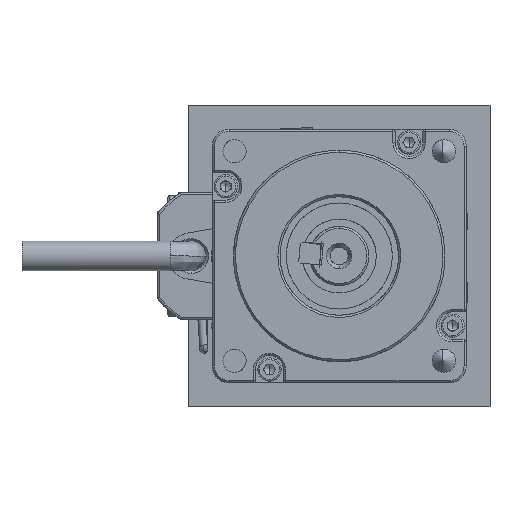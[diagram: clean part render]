
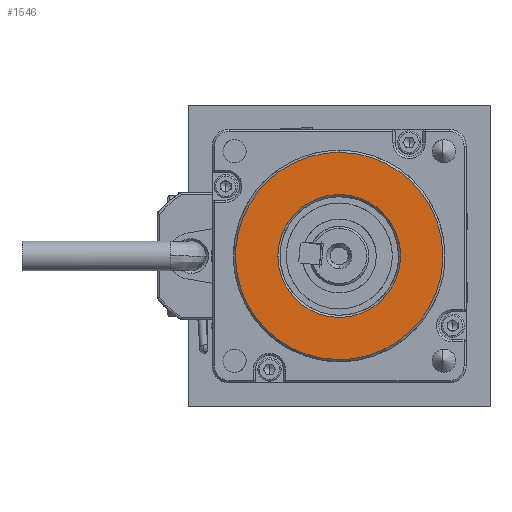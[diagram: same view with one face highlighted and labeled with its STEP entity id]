
A CAD part, left-side view. The second image highlights one B-rep face of the part: STEP entity #1546.
In plain terms, the highlighted planar face has unit normal (1, 0, 0).
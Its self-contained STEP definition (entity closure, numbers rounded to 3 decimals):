
#104=FACE_BOUND('',#3570,.T.);
#394=PLANE('',#16506);
#1546=ADVANCED_FACE('',(#2511,#104),#394,.T.);
#2511=FACE_OUTER_BOUND('',#3569,.T.);
#3569=EDGE_LOOP('',(#7785,#7786));
#3570=EDGE_LOOP('',(#7787,#7788));
#7785=ORIENTED_EDGE('',*,*,#10624,.T.);
#7786=ORIENTED_EDGE('',*,*,#10495,.T.);
#7787=ORIENTED_EDGE('',*,*,#10860,.F.);
#7788=ORIENTED_EDGE('',*,*,#10489,.F.);
#10489=EDGE_CURVE('',#15268,#15269,#13512,.T.);
#10495=EDGE_CURVE('',#15274,#15275,#13515,.T.);
#10624=EDGE_CURVE('',#15275,#15274,#13567,.T.);
#10860=EDGE_CURVE('',#15269,#15268,#13658,.T.);
#13512=(
BOUNDED_CURVE()
B_SPLINE_CURVE(2,(#44042,#44043,#44044,#44045,#44046),.UNSPECIFIED.,.F.,
 .F.)
B_SPLINE_CURVE_WITH_KNOTS((3,2,3),(-45.553,-22.777,
0.),.UNSPECIFIED.)
CURVE()
GEOMETRIC_REPRESENTATION_ITEM()
RATIONAL_B_SPLINE_CURVE((1.,0.707,1.,0.707,1.))
REPRESENTATION_ITEM('')
);
#13515=(
BOUNDED_CURVE()
B_SPLINE_CURVE(2,(#44059,#44060,#44061,#44062,#44063),.UNSPECIFIED.,.F.,
 .F.)
B_SPLINE_CURVE_WITH_KNOTS((3,2,3),(0.,38.485,76.969),
 .UNSPECIFIED.)
CURVE()
GEOMETRIC_REPRESENTATION_ITEM()
RATIONAL_B_SPLINE_CURVE((1.,0.707,1.,0.707,1.))
REPRESENTATION_ITEM('')
);
#13567=(
BOUNDED_CURVE()
B_SPLINE_CURVE(2,(#44406,#44407,#44408,#44409,#44410),.UNSPECIFIED.,.F.,
 .F.)
B_SPLINE_CURVE_WITH_KNOTS((3,2,3),(0.,38.485,76.969),
 .UNSPECIFIED.)
CURVE()
GEOMETRIC_REPRESENTATION_ITEM()
RATIONAL_B_SPLINE_CURVE((1.,0.707,1.,0.707,1.))
REPRESENTATION_ITEM('')
);
#13658=(
BOUNDED_CURVE()
B_SPLINE_CURVE(2,(#46212,#46213,#46214,#46215,#46216),.UNSPECIFIED.,.F.,
 .F.)
B_SPLINE_CURVE_WITH_KNOTS((3,2,3),(-45.553,-22.777,
0.),.UNSPECIFIED.)
CURVE()
GEOMETRIC_REPRESENTATION_ITEM()
RATIONAL_B_SPLINE_CURVE((1.,0.707,1.,0.707,1.))
REPRESENTATION_ITEM('')
);
#15268=VERTEX_POINT('',#43765);
#15269=VERTEX_POINT('',#43766);
#15274=VERTEX_POINT('',#43771);
#15275=VERTEX_POINT('',#43772);
#16506=AXIS2_PLACEMENT_3D('',#42560,#16814,$);
#16814=DIRECTION('',(1.,0.,0.));
#42560=CARTESIAN_POINT('',(-5.4,-29.401,-29.401));
#43765=CARTESIAN_POINT('',(-5.4,14.5,0.));
#43766=CARTESIAN_POINT('',(-5.4,-14.5,0.));
#43771=CARTESIAN_POINT('',(-5.4,0.,24.5));
#43772=CARTESIAN_POINT('',(-5.4,0.,-24.5));
#44042=CARTESIAN_POINT('',(-5.4,14.5,0.));
#44043=CARTESIAN_POINT('',(-5.4,14.5,14.5));
#44044=CARTESIAN_POINT('',(-5.4,0.,14.5));
#44045=CARTESIAN_POINT('',(-5.4,-14.5,14.5));
#44046=CARTESIAN_POINT('',(-5.4,-14.5,0.));
#44059=CARTESIAN_POINT('',(-5.4,0.,24.5));
#44060=CARTESIAN_POINT('',(-5.4,-24.5,24.5));
#44061=CARTESIAN_POINT('',(-5.4,-24.5,0.));
#44062=CARTESIAN_POINT('',(-5.4,-24.5,-24.5));
#44063=CARTESIAN_POINT('',(-5.4,0.,-24.5));
#44406=CARTESIAN_POINT('',(-5.4,0.,-24.5));
#44407=CARTESIAN_POINT('',(-5.4,24.5,-24.5));
#44408=CARTESIAN_POINT('',(-5.4,24.5,0.));
#44409=CARTESIAN_POINT('',(-5.4,24.5,24.5));
#44410=CARTESIAN_POINT('',(-5.4,0.,24.5));
#46212=CARTESIAN_POINT('',(-5.4,-14.5,0.));
#46213=CARTESIAN_POINT('',(-5.4,-14.5,-14.5));
#46214=CARTESIAN_POINT('',(-5.4,0.,-14.5));
#46215=CARTESIAN_POINT('',(-5.4,14.5,-14.5));
#46216=CARTESIAN_POINT('',(-5.4,14.5,0.));
